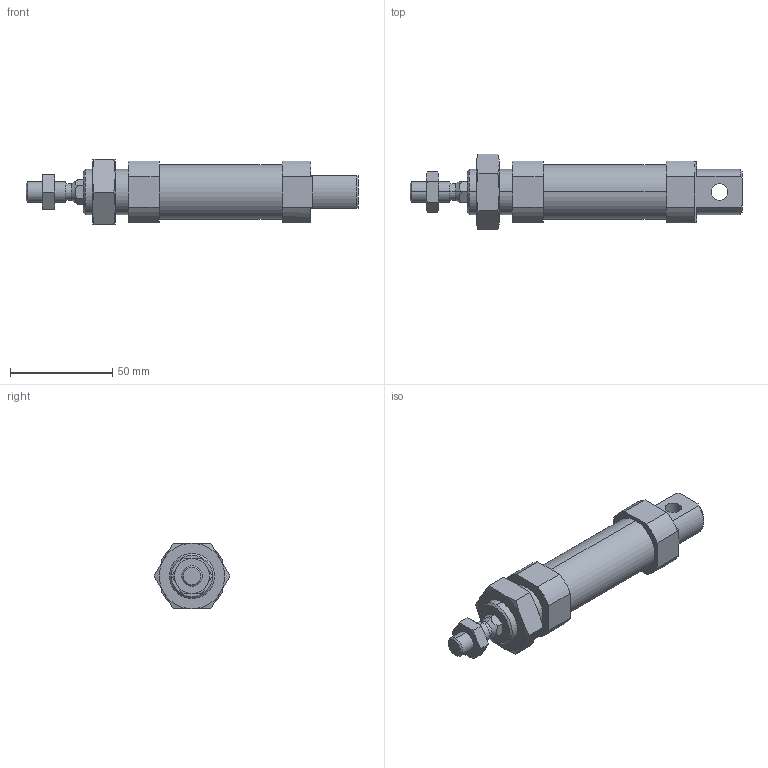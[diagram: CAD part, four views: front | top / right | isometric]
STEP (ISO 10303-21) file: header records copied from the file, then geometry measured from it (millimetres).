
FILE_DESCRIPTION (( 'STEP AP203' ), '1' );
FILE_NAME ('CSMK25-25.STEP', '2020-04-02T10:50:18', ( '' ), ( '' ), 'SwSTEP 2.0', 'SolidWorks 2019', '' );
FILE_SCHEMA (( 'CONFIG_CONTROL_DESIGN' ));
Length unit declared in the file: millimetre
Products named in the file (1): CSMK25-25
Bounding box: 162 x 36.95 x 32 mm (x, y, z)
Volume: 70377.8 mm3; surface area: 26500.8 mm2
Topology: 4 solids, 4 shells, 135 faces, 310 edges, 188 vertices
Faces by surface type: plane 53, cone 50, cylinder 32
Entity records: 4281 total; most frequent: CARTESIAN_POINT 1196, DIRECTION 632, ORIENTED_EDGE 612, EDGE_CURVE 306, AXIS2_PLACEMENT_3D 248, VERTEX_POINT 188, EDGE_LOOP 150, LINE 136
